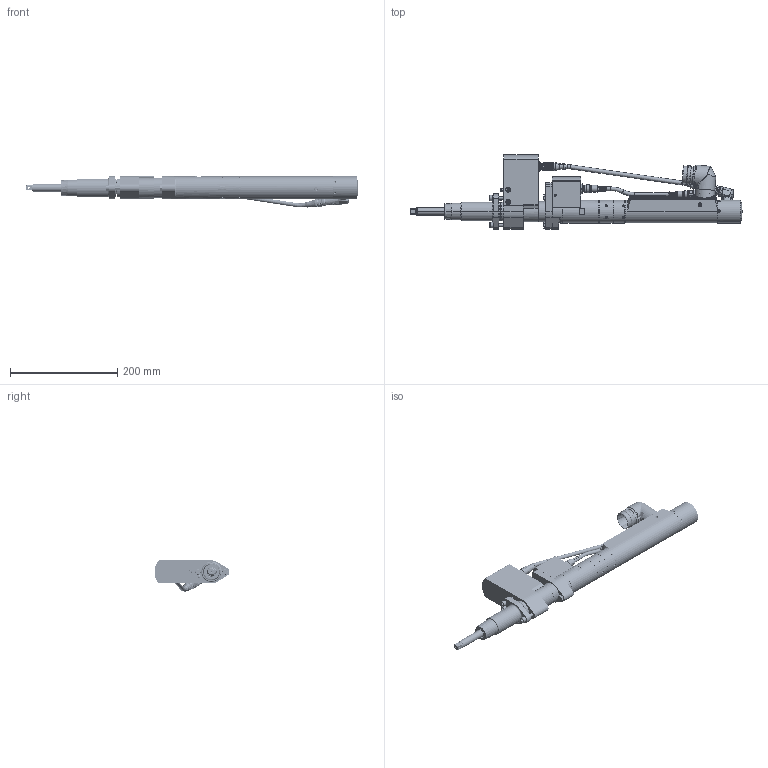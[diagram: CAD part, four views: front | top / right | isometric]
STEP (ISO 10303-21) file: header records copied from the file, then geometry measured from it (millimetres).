
FILE_DESCRIPTION((''),'2;1');
FILE_NAME('6151660040_ASM','2015-07-09T',('greextsd'),(''),'CREO PARAMETRIC BY PTC INC, 2014500','CREO PARAMETRIC BY PTC INC, 2014500','');
FILE_SCHEMA(('CONFIG_CONTROL_DESIGN'));
Products named in the file (7): 6151658520_EFD43-45; 6153988780; BE41307; BE42459; 6151659940_EFD43-45-TA_ASM; 6153970130; 6151660040_ASM
Assembly tree (6 placements, depth 3):
  6151660040_ASM
    6151659940_EFD43-45-TA_ASM
      6151658520_EFD43-45
      6153988780
      BE41307
      BE42459
    6153970130
Bounding box: 619.65 x 139.71 x 58.32 mm (x, y, z)
Volume: 900070 mm3; surface area: 296924.5 mm2
Topology: 8 solids, 12 shells, 4681 faces, 12149 edges, 7749 vertices
Faces by surface type: plane 1912, cylinder 1558, cone 591, torus 364, bspline 119, extrusion 99, sphere 38
Entity records: 172530 total; most frequent: CARTESIAN_POINT 57391, DIRECTION 24139, ORIENTED_EDGE 24114, EDGE_CURVE 12057, AXIS2_PLACEMENT_3D 9060, VERTEX_POINT 7749, VECTOR 6019, LINE 5920
